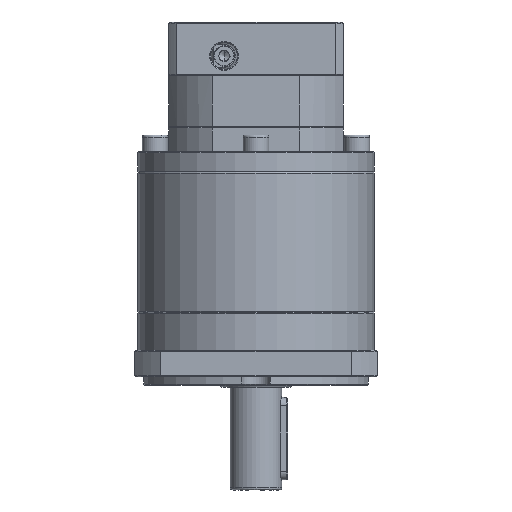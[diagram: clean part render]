
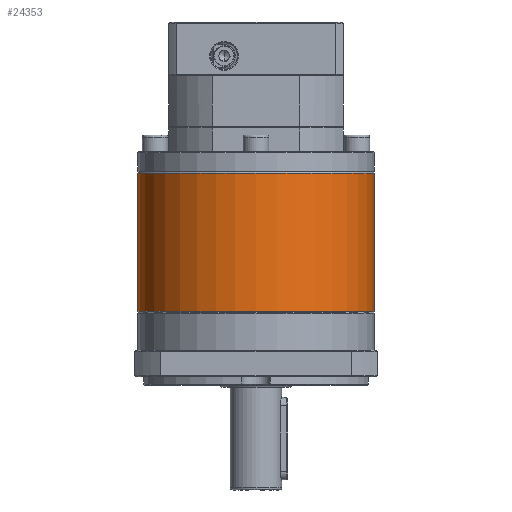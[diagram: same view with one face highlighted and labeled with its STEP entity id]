
A CAD part, front view. The second image highlights one B-rep face of the part: STEP entity #24353.
In plain terms, the highlighted cylindrical face has radius 57.5 mm (diameter 115 mm), a partial arc.
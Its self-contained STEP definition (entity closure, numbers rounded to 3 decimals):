
#9502 = CARTESIAN_POINT ( 'NONE',  ( 75.502, 80.796, -134.579 ) ) ;
#17547 = LINE ( 'NONE', #37241, #64872 ) ;
#24353 = ADVANCED_FACE ( 'NONE', ( #86847 ), #47373, .T. ) ;
#25238 = ORIENTED_EDGE ( 'NONE', *, *, #89054, .T. ) ;
#26114 = VERTEX_POINT ( 'NONE', #97976 ) ;
#30510 = VERTEX_POINT ( 'NONE', #63522 ) ;
#33707 = AXIS2_PLACEMENT_3D ( 'NONE', #9502, #110498, #52744 ) ;
#37241 = CARTESIAN_POINT ( 'NONE',  ( 18.002, 80.796, -66.868 ) ) ;
#38578 = EDGE_LOOP ( 'NONE', ( #50815, #25238, #67577, #130865, #59648 ) ) ;
#39995 = DIRECTION ( 'NONE',  ( 0., 0., -1. ) ) ;
#45530 = DIRECTION ( 'NONE',  ( 0., 0., -1. ) ) ;
#47373 = CYLINDRICAL_SURFACE ( 'NONE', #92108, 57.5 ) ;
#47559 = CARTESIAN_POINT ( 'NONE',  ( 133.002, 80.796, -134.579 ) ) ;
#48154 = CIRCLE ( 'NONE', #106038, 57.5 ) ;
#50815 = ORIENTED_EDGE ( 'NONE', *, *, #66101, .F. ) ;
#50930 = VECTOR ( 'NONE', #129732, 1000. ) ;
#52744 = DIRECTION ( 'NONE',  ( -1., 0., 0. ) ) ;
#55613 = LINE ( 'NONE', #90879, #50930 ) ;
#59648 = ORIENTED_EDGE ( 'NONE', *, *, #70331, .T. ) ;
#59843 = CARTESIAN_POINT ( 'NONE',  ( 75.502, 80.796, -67.368 ) ) ;
#60219 = AXIS2_PLACEMENT_3D ( 'NONE', #59843, #39995, #99572 ) ;
#63522 = CARTESIAN_POINT ( 'NONE',  ( 18.002, 80.796, -67.368 ) ) ;
#64497 = CARTESIAN_POINT ( 'NONE',  ( 75.502, 80.796, -67.368 ) ) ;
#64872 = VECTOR ( 'NONE', #117974, 1000. ) ;
#66101 = EDGE_CURVE ( 'NONE', #66447, #87378, #55613, .T. ) ;
#66399 = EDGE_CURVE ( 'NONE', #30510, #26114, #17547, .T. ) ;
#66447 = VERTEX_POINT ( 'NONE', #98110 ) ;
#67430 = DIRECTION ( 'NONE',  ( -1., 0., 0. ) ) ;
#67577 = ORIENTED_EDGE ( 'NONE', *, *, #82121, .T. ) ;
#70331 = EDGE_CURVE ( 'NONE', #26114, #87378, #115522, .T. ) ;
#82121 = EDGE_CURVE ( 'NONE', #91575, #30510, #117747, .T. ) ;
#86847 = FACE_OUTER_BOUND ( 'NONE', #38578, .T. ) ;
#87378 = VERTEX_POINT ( 'NONE', #47559 ) ;
#89054 = EDGE_CURVE ( 'NONE', #66447, #91575, #48154, .T. ) ;
#89242 = CARTESIAN_POINT ( 'NONE',  ( 75.502, 23.296, -67.368 ) ) ;
#90879 = CARTESIAN_POINT ( 'NONE',  ( 133.002, 80.796, -66.868 ) ) ;
#91575 = VERTEX_POINT ( 'NONE', #89242 ) ;
#92108 = AXIS2_PLACEMENT_3D ( 'NONE', #118200, #127890, #67430 ) ;
#97976 = CARTESIAN_POINT ( 'NONE',  ( 18.002, 80.796, -134.579 ) ) ;
#98110 = CARTESIAN_POINT ( 'NONE',  ( 133.002, 80.796, -67.368 ) ) ;
#99572 = DIRECTION ( 'NONE',  ( -1., 0., 0. ) ) ;
#104169 = DIRECTION ( 'NONE',  ( -1., 0., 0. ) ) ;
#106038 = AXIS2_PLACEMENT_3D ( 'NONE', #64497, #45530, #104169 ) ;
#110498 = DIRECTION ( 'NONE',  ( 0., 0., 1. ) ) ;
#115522 = CIRCLE ( 'NONE', #33707, 57.5 ) ;
#117747 = CIRCLE ( 'NONE', #60219, 57.5 ) ;
#117974 = DIRECTION ( 'NONE',  ( 0., 0., -1. ) ) ;
#118200 = CARTESIAN_POINT ( 'NONE',  ( 75.502, 80.796, -66.868 ) ) ;
#127890 = DIRECTION ( 'NONE',  ( 0., 0., -1. ) ) ;
#129732 = DIRECTION ( 'NONE',  ( 0., 0., -1. ) ) ;
#130865 = ORIENTED_EDGE ( 'NONE', *, *, #66399, .T. ) ;
